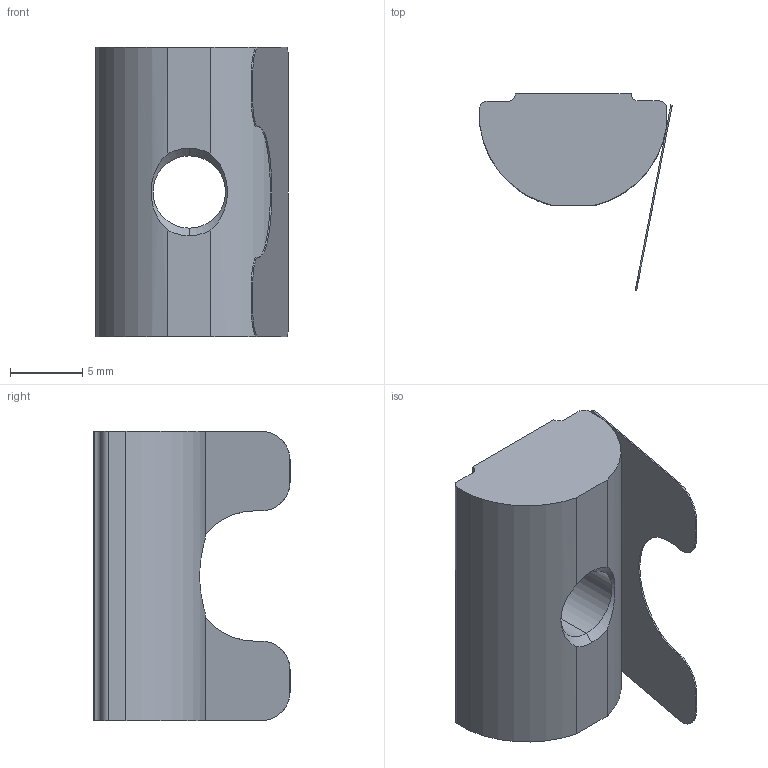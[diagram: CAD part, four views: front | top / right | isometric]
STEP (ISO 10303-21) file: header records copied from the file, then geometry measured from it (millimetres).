
FILE_DESCRIPTION (( 'STEP AP214' ), '1' );
FILE_NAME ('1.2124 T-uramutteri M6 jousella.STEP', '2025-09-08T07:13:22', ( '' ), ( '' ), 'SwSTEP 2.0', 'SolidWorks 2025', '' );
FILE_SCHEMA (( 'AUTOMOTIVE_DESIGN' ));
Length unit declared in the file: millimetre
Products named in the file (1): 1.2124 T-uramutteri M6 jousella
Bounding box: 13.29 x 13.56 x 20 mm (x, y, z)
Surface area: 1349 mm2 (no closed solid volume)
Topology: 0 solids, 2 shells, 38 faces, 101 edges, 66 vertices
Faces by surface type: plane 19, cylinder 15, cone 4
Entity records: 1650 total; most frequent: CARTESIAN_POINT 240, DIRECTION 213, ORIENTED_EDGE 202, EDGE_CURVE 101, AXIS2_PLACEMENT_3D 75, VERTEX_POINT 66, VECTOR 63, LINE 63
